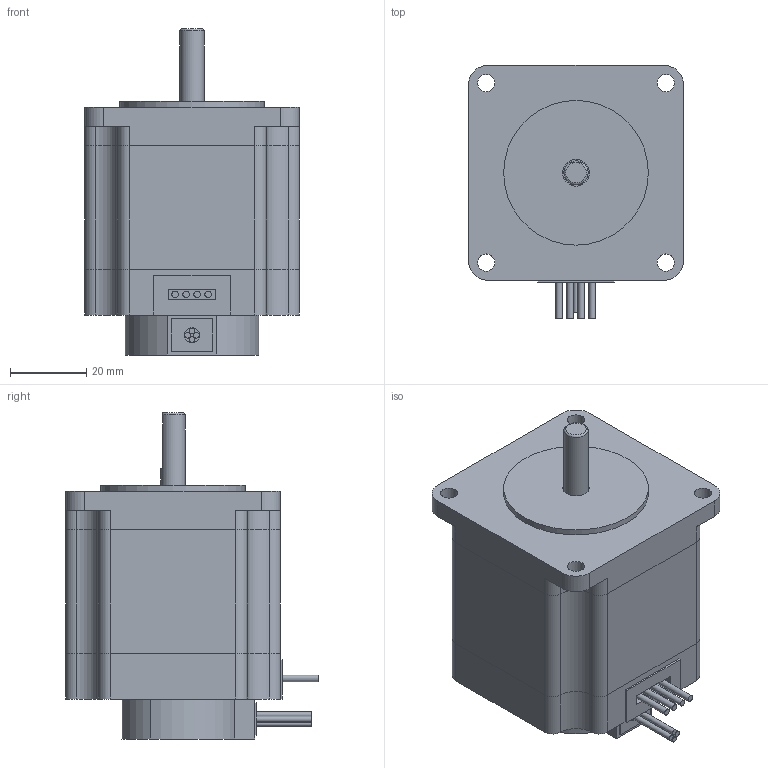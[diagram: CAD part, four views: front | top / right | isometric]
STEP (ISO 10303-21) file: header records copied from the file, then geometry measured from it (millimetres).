
FILE_DESCRIPTION(/* description */ (''),/* implementation_level */ '2;1');
FILE_NAME(/* name */ 'STP-59D3-Y17-00320.stp',/* time_stamp */ '2018-09-03T09:46:40+08:00',/* author */ (''),/* organization */ (''),/* preprocessor_version */ 'ST-DEVELOPER v11',/* originating_system */ 'SIEMENS UGS NX 6.0',/* authorisation */ '');
FILE_SCHEMA (('CONFIG_CONTROL_DESIGN'));
Length unit declared in the file: millimetre
Products named in the file (1): STP-59D3-Y17-00320
Bounding box: 56.4 x 66.4 x 85.6 mm (x, y, z)
Volume: 170443.6 mm3; surface area: 32054.9 mm2
Topology: 3 solids, 3 shells, 116 faces, 293 edges, 198 vertices
Faces by surface type: cylinder 59, plane 56, torus 1
Full cylindrical faces by diameter (mm): 1.5 x4, 1.7 x4, 4 x1, 4.5 x4, 6.35 x1, 7 x1, 38 x1
Entity records: 3501 total; most frequent: DIRECTION 619, CARTESIAN_POINT 608, ORIENTED_EDGE 534, EDGE_CURVE 267, AXIS2_PLACEMENT_3D 237, VERTEX_POINT 188, EDGE_LOOP 155, LINE 145
